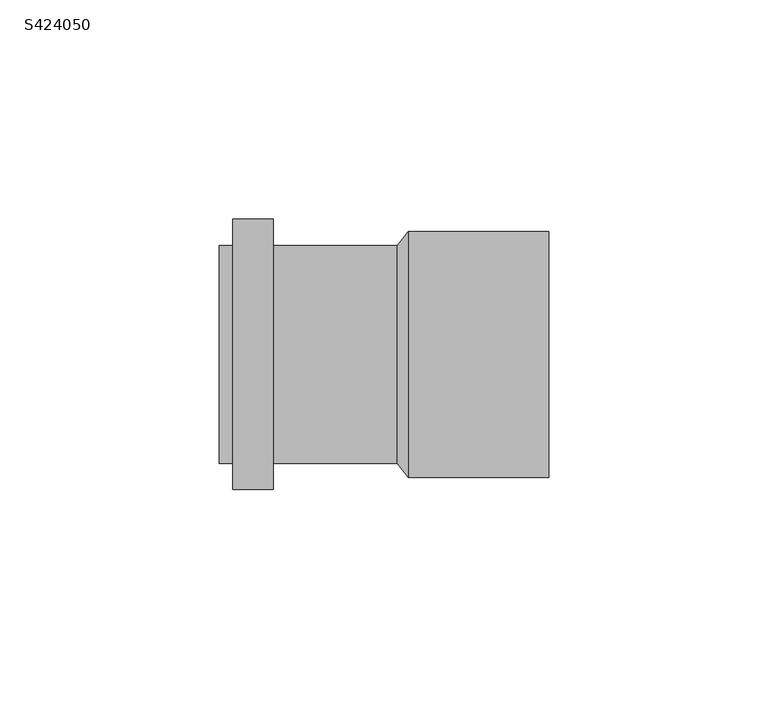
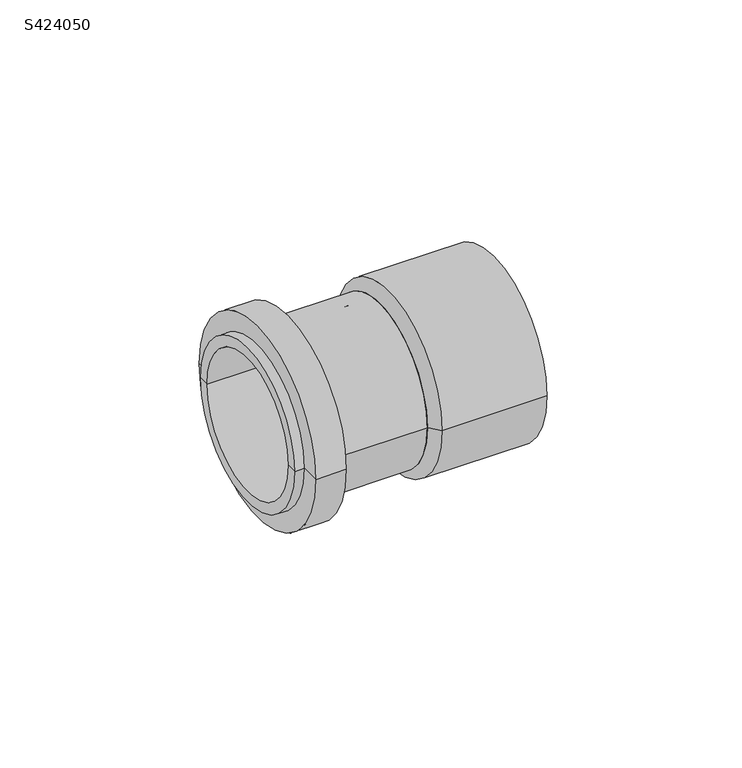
"""IFC4 building model written with IfcOpenShell, lengths in millimetres: pipe fitting geometry, PIF_HDPE PVCABS_ADAPTOR_MARLEY2 : S424050."""

from ifc_helpers import new_model, si_unit, frame, origin, place, context, project, spatial, polyline, circle_curve, source, transform, mapped, element, save
from ifc_brep_helpers import plane_surface, cylinder_surface, revolved_surface, advanced_brep


def s424050_1e7a39d4(model_context):
    return source(origin(), model_context, "Body", "AdvancedBrep", [
        advanced_brep(
        [(3.0, -24.85, 0.0), (3.0, 24.85, 0.0), (5.5, 28.0, 0.0), (5.5, -28.0, 0.0), (3.0, 0.0, 0.0), (37.5, -28.0, 0.0), (37.5, 28.0, 0.0), (37.5, 0.0, 0.0)],
        [
            (0, 1, circle_curve(frame((3.0, 0.0, 0.0), z_axis=(1.0, 0.0, 0.0), x_axis=(0.0, 1.0, 0.0)), 24.85)),
            (1, 2),
            (2, 3, circle_curve(frame((5.5, 0.0, 0.0), z_axis=(-1.0, 0.0, 0.0), x_axis=(0.0, 1.0, 0.0)), 28.0)),
            (3, 0),
            (1, 0, circle_curve(frame((3.0, 0.0, 0.0), z_axis=(1.0, 0.0, 0.0), x_axis=(0.0, 1.0, 0.0)), 24.85)),
            (3, 2, circle_curve(frame((5.5, 0.0, 0.0), z_axis=(-1.0, 0.0, 0.0), x_axis=(0.0, 1.0, 0.0)), 28.0)),
            (4, 1),
            (0, 4),
            (5, 6, circle_curve(frame((37.5, 0.0, 0.0), z_axis=(1.0, 0.0, 0.0), x_axis=(0.0, 1.0, 0.0)), 28.0)),
            (6, 7),
            (7, 5),
            (6, 5, circle_curve(frame((37.5, 0.0, 0.0), z_axis=(1.0, 0.0, 0.0), x_axis=(0.0, 1.0, 0.0)), 28.0)),
            (2, 6),
            (5, 3),
        ],
        [
            revolved_surface(polyline([(5.5, 28.0, 0.0), (3.0, 24.85, 0.0)]), (46.6540294, 0.0, 0.0), (-1.0, 0.0, 0.0)),
            plane_surface(frame((3.0, 0.0, 0.0), z_axis=(-1.0, 0.0, 0.0), x_axis=(0.0, 1.0, 0.0))),
            plane_surface(frame((37.5, 0.0, 0.0), z_axis=(1.0, 0.0, 0.0), x_axis=(0.0, 1.0, 0.0))),
            cylinder_surface(frame((46.6540294, 0.0, 0.0), z_axis=(-1.0, 0.0, 0.0), x_axis=(0.0, 1.0, 0.0)), 28.0),
        ],
        [
            (0, [[1, 2, 3, 4]]),
            (0, [[5, -4, 6, -2]]),
            (1, [[7, -1, 8]]),
            (1, [[-8, -5, -7]]),
            (2, [[9, 10, 11]]),
            (2, [[12, -11, -10]]),
            (3, [[-3, 13, -9, 14]]),
            (3, [[-6, -14, -12, -13]]),
        ],
    ),
        advanced_brep(
        [(0.0, -21.5, 0.0), (0.0, 21.5, 0.0), (-37.5, 21.5, 0.0), (-37.5, -21.5, 0.0), (0.0, 0.0, 0.0), (3.0, -24.85, 0.0), (3.0, 24.85, 0.0), (3.0, 0.0, 0.0), (-25.2711836, -24.85, 0.0), (-25.2711836, 24.85, 0.0), (-25.2711836, -30.8, 0.0), (-25.2711836, 30.8, 0.0), (-34.5, -30.8, 0.0), (-34.5, 30.8, 0.0), (-34.5, -24.85, 0.0), (-34.5, 24.85, 0.0), (-37.5, -24.85, 0.0), (-37.5, 24.85, 0.0)],
        [
            (0, 1, circle_curve(frame((0.0, 0.0, 0.0), z_axis=(1.0, 0.0, 0.0), x_axis=(0.0, 1.0, 0.0)), 21.5)),
            (1, 2),
            (2, 3, circle_curve(frame((-37.5, 0.0, 0.0), z_axis=(-1.0, 0.0, 0.0), x_axis=(0.0, 1.0, 0.0)), 21.5)),
            (3, 0),
            (1, 0, circle_curve(frame((0.0, 0.0, 0.0), z_axis=(1.0, 0.0, 0.0), x_axis=(0.0, 1.0, 0.0)), 21.5)),
            (3, 2, circle_curve(frame((-37.5, 0.0, 0.0), z_axis=(-1.0, 0.0, 0.0), x_axis=(0.0, 1.0, 0.0)), 21.5)),
            (4, 1),
            (0, 4),
            (5, 6, circle_curve(frame((3.0, 0.0, 0.0), z_axis=(1.0, 0.0, 0.0), x_axis=(0.0, 1.0, 0.0)), 24.85)),
            (6, 7),
            (7, 5),
            (6, 5, circle_curve(frame((3.0, 0.0, 0.0), z_axis=(1.0, 0.0, 0.0), x_axis=(0.0, 1.0, 0.0)), 24.85)),
            (8, 9, circle_curve(frame((-25.2711836, 0.0, 0.0), z_axis=(1.0, 0.0, 0.0), x_axis=(0.0, 1.0, 0.0)), 24.85)),
            (9, 6),
            (5, 8),
            (9, 8, circle_curve(frame((-25.2711836, 0.0, 0.0), z_axis=(1.0, 0.0, 0.0), x_axis=(0.0, 1.0, 0.0)), 24.85)),
            (10, 11, circle_curve(frame((-25.2711836, 0.0, 0.0), z_axis=(1.0, 0.0, 0.0), x_axis=(0.0, 1.0, 0.0)), 30.8)),
            (11, 9),
            (8, 10),
            (11, 10, circle_curve(frame((-25.2711836, 0.0, 0.0), z_axis=(1.0, 0.0, 0.0), x_axis=(0.0, 1.0, 0.0)), 30.8)),
            (12, 13, circle_curve(frame((-34.5, 0.0, 0.0), z_axis=(1.0, 0.0, 0.0), x_axis=(0.0, 1.0, 0.0)), 30.8)),
            (13, 11),
            (10, 12),
            (13, 12, circle_curve(frame((-34.5, 0.0, 0.0), z_axis=(1.0, 0.0, 0.0), x_axis=(0.0, 1.0, 0.0)), 30.8)),
            (14, 15, circle_curve(frame((-34.5, 0.0, 0.0), z_axis=(1.0, 0.0, 0.0), x_axis=(0.0, 1.0, 0.0)), 24.85)),
            (15, 13),
            (12, 14),
            (15, 14, circle_curve(frame((-34.5, 0.0, 0.0), z_axis=(1.0, 0.0, 0.0), x_axis=(0.0, 1.0, 0.0)), 24.85)),
            (16, 17, circle_curve(frame((-37.5, 0.0, 0.0), z_axis=(1.0, 0.0, 0.0), x_axis=(0.0, 1.0, 0.0)), 24.85)),
            (17, 15),
            (14, 16),
            (17, 16, circle_curve(frame((-37.5, 0.0, 0.0), z_axis=(1.0, 0.0, 0.0), x_axis=(0.0, 1.0, 0.0)), 24.85)),
            (2, 17),
            (16, 3),
        ],
        [
            revolved_surface(polyline([(-37.5, 21.5, 0.0), (0.0, 21.5, 0.0)]), (-44.3991004, 0.0, 0.0), (-1.0, 0.0, 0.0)),
            plane_surface(frame((0.0, 0.0, 0.0), z_axis=(-1.0, 0.0, 0.0), x_axis=(0.0, 1.0, 0.0))),
            plane_surface(frame((3.0, 0.0, 0.0), z_axis=(1.0, 0.0, 0.0), x_axis=(0.0, 1.0, 0.0))),
            cylinder_surface(frame((-44.3991004, 0.0, 0.0), z_axis=(-1.0, 0.0, 0.0), x_axis=(0.0, 1.0, 0.0)), 24.85),
            plane_surface(frame((-25.2711836, 0.0, 0.0), z_axis=(1.0, 0.0, 0.0), x_axis=(0.0, 1.0, 0.0))),
            cylinder_surface(frame((-44.3991004, 0.0, 0.0), z_axis=(-1.0, 0.0, 0.0), x_axis=(0.0, 1.0, 0.0)), 30.8),
            plane_surface(frame((-34.5, 0.0, 0.0), z_axis=(-1.0, 0.0, 0.0), x_axis=(0.0, 1.0, 0.0))),
            plane_surface(frame((-37.5, 0.0, 0.0), z_axis=(-1.0, 0.0, 0.0), x_axis=(0.0, 1.0, 0.0))),
        ],
        [
            (0, [[1, 2, 3, 4]]),
            (0, [[5, -4, 6, -2]]),
            (1, [[7, -1, 8]]),
            (1, [[-8, -5, -7]]),
            (2, [[9, 10, 11]]),
            (2, [[12, -11, -10]]),
            (3, [[13, 14, -9, 15]]),
            (3, [[16, -15, -12, -14]]),
            (4, [[17, 18, -13, 19]]),
            (4, [[20, -19, -16, -18]]),
            (5, [[21, 22, -17, 23]]),
            (5, [[24, -23, -20, -22]]),
            (6, [[25, 26, -21, 27]]),
            (6, [[28, -27, -24, -26]]),
            (3, [[29, 30, -25, 31]]),
            (3, [[32, -31, -28, -30]]),
            (7, [[-3, 33, -29, 34]]),
            (7, [[-6, -34, -32, -33]]),
        ],
    ),
    ])


if __name__ == "__main__":
    model = new_model("IFC4")
    model_context = context("Model", 3, world=origin())
    ifc_project = project(units=[si_unit("LENGTHUNIT", "METRE", prefix="MILLI")], contexts=[model_context])
    site = spatial("IfcSite", under=ifc_project)
    building = spatial("IfcBuilding", under=site)
    placement = place(None, origin())
    s424050_shape = s424050_1e7a39d4(model_context)
    element("IfcPipeFitting", 1, ObjectType="PIF_HDPE PVCABS_ADAPTOR_MARLEY2 : S424050", at=placement, inside=building, context=model_context, shape_type="MappedRepresentation", body=[
        mapped(s424050_shape, transform((0.0, 0.0, 0.0), x_axis=(1.0, 0.0, 0.0), y_axis=(0.0, 1.0, 0.0), z_axis=(0.0, 0.0, 1.0))),
    ])
    save(model, "model.ifc")
